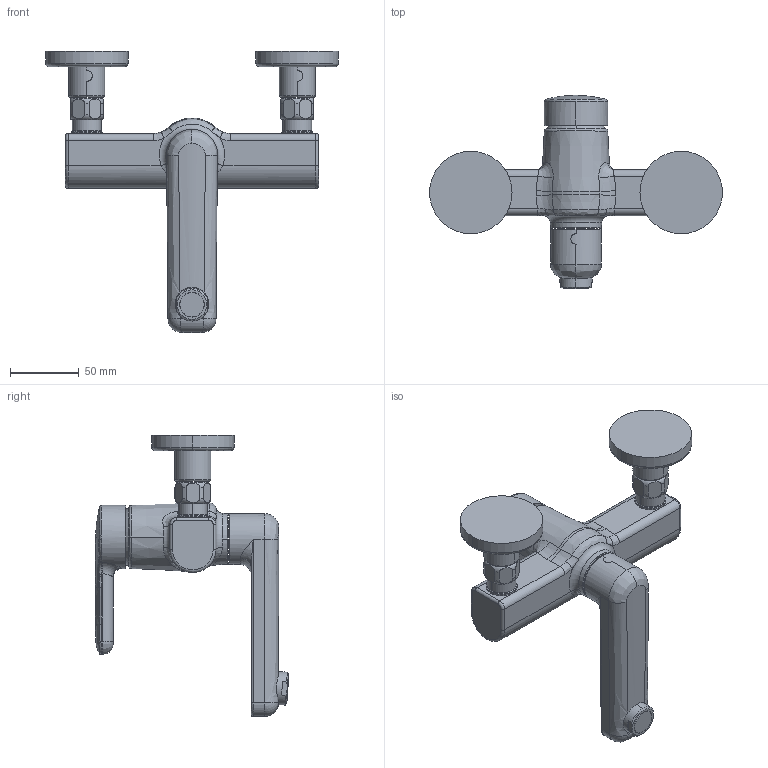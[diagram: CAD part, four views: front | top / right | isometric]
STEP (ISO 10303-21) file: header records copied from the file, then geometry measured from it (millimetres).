
FILE_DESCRIPTION((''),'2;1');
FILE_NAME('11472092','2020-09-22T15:08:24',('SN986'),(''),'CREO PARAMETRIC BY PTC INC, 2018500','CREO PARAMETRIC BY PTC INC, 2018500','');
FILE_SCHEMA(('CONFIG_CONTROL_DESIGN'));
Length unit declared in the file: millimetre
Products named in the file (1): 11472092
Bounding box: 213 x 140.39 x 204.3 mm (x, y, z)
Volume: 568954.7 mm3; surface area: 79131.9 mm2
Topology: 4 solids, 4 shells, 241 faces, 561 edges, 337 vertices
Faces by surface type: cylinder 64, bspline 57, torus 54, plane 48, cone 13, sphere 5
Entity records: 15192 total; most frequent: CARTESIAN_POINT 10044, ORIENTED_EDGE 1118, DIRECTION 997, EDGE_CURVE 559, AXIS2_PLACEMENT_3D 437, VERTEX_POINT 337, CIRCLE 253, EDGE_LOOP 252
